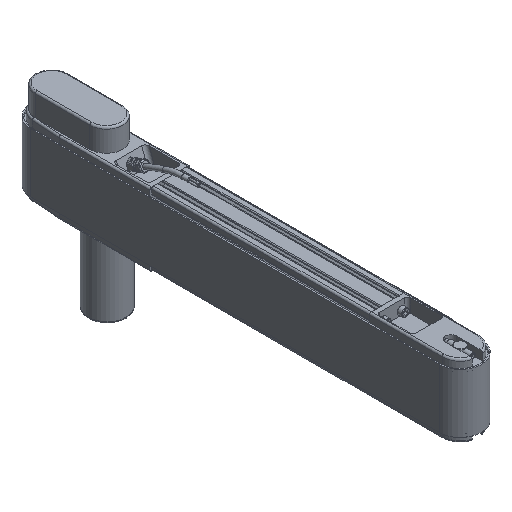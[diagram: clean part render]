
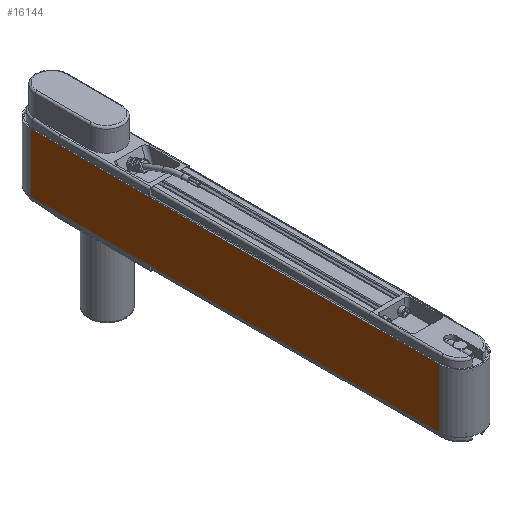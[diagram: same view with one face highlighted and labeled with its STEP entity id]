
A CAD part, isometric view. The second image highlights one B-rep face of the part: STEP entity #16144.
In plain terms, the highlighted planar face has unit normal (-1, 0, 0).
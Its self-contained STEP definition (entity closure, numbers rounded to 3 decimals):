
#508=PLANE('',#17208);
#1169=FACE_OUTER_BOUND('',#2060,.T.);
#2060=EDGE_LOOP('',(#10916,#10917,#10918,#10919));
#3059=LINE('',#24001,#4317);
#3062=LINE('',#24010,#4320);
#3065=LINE('',#24018,#4323);
#3066=LINE('',#24020,#4324);
#4317=VECTOR('',#19318,10.);
#4320=VECTOR('',#19327,10.);
#4323=VECTOR('',#19336,10.);
#4324=VECTOR('',#19339,10.);
#6468=VERTEX_POINT('',#23997);
#6470=VERTEX_POINT('',#24000);
#6472=VERTEX_POINT('',#24006);
#6475=VERTEX_POINT('',#24016);
#8187=EDGE_CURVE('',#6470,#6468,#3059,.T.);
#8192=EDGE_CURVE('',#6472,#6470,#3062,.T.);
#8196=EDGE_CURVE('',#6468,#6475,#3065,.T.);
#8197=EDGE_CURVE('',#6475,#6472,#3066,.T.);
#10916=ORIENTED_EDGE('',*,*,#8197,.T.);
#10917=ORIENTED_EDGE('',*,*,#8192,.T.);
#10918=ORIENTED_EDGE('',*,*,#8187,.T.);
#10919=ORIENTED_EDGE('',*,*,#8196,.T.);
#16144=ADVANCED_FACE('',(#1169),#508,.T.);
#17208=AXIS2_PLACEMENT_3D('',#24019,#19337,#19338);
#19318=DIRECTION('',(0.,-1.,0.));
#19327=DIRECTION('',(0.,0.,-1.));
#19336=DIRECTION('',(0.,0.,1.));
#19337=DIRECTION('center_axis',(-1.,0.,0.));
#19338=DIRECTION('ref_axis',(0.,0.,
1.));
#19339=DIRECTION('',(0.,1.,0.));
#23997=CARTESIAN_POINT('',(-23.3,-320.,-32.5));
#24000=CARTESIAN_POINT('',(-23.3,130.,-32.5));
#24001=CARTESIAN_POINT('',(-23.3,-320.,-32.5));
#24006=CARTESIAN_POINT('',(-23.3,130.,32.5));
#24010=CARTESIAN_POINT('',(-23.3,130.,0.));
#24016=CARTESIAN_POINT('',(-23.3,-320.,32.5));
#24018=CARTESIAN_POINT('',(-23.3,-320.,0.));
#24019=CARTESIAN_POINT('Origin',(-23.3,-320.,0.));
#24020=CARTESIAN_POINT('',(-23.3,-320.,32.5));
